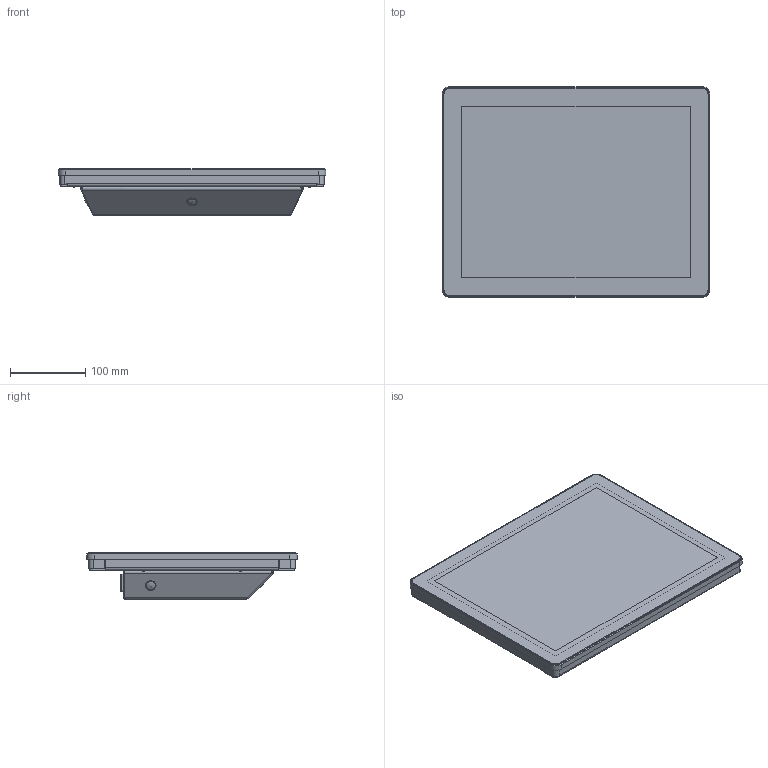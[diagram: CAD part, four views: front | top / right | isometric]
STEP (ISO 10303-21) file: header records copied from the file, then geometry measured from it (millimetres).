
FILE_DESCRIPTION (( 'STEP AP203' ), '1' );
FILE_NAME ('V150S-MON.STEP', '2026-07-31T08:48:04', ( '' ), ( '' ), 'SwSTEP 2.0', 'SolidWorks 2025', '' );
FILE_SCHEMA (( 'CONFIG_CONTROL_DESIGN' ));
Length unit declared in the file: millimetre
Products named in the file (26): V-UNIS-01 Backcover assembly_MON; Afdekkap 12mm; V-UNIS-10 Backcover; TEST BS-M4-8 RVS blinde inpersafstandsteun; V-UNI-12 Bevestigingsplaat; Part3^V150S-00 Assembly; V150S-10 Behuizing; S150S-10 Bezel; V150S-11 Montagestrip; EG-15-319-0403V1; CMI G150XNE-L03; FH-M4-12-ZI Inpersdraadeind; Meanwell IRM-90-12ST; FH4-M3-12 Inpersdraadeind; C08-1525NPH; 220V IEC snap-in input socket 539-2017; V-UNI-MON Connector panel; SO-3,5M3-6-ZI Inpersafstandsteun; V150S-MON; Celrubber 2x6^V150S-00 Assembly; CPCB membrame key pad; SO-3,5M3-10-ZI Inpersafstandsteun; V-serie - M3 x 4 - Z --- 3N_DIN 967 - M3 x 4 - Z --- 3N
Assembly tree (50 placements, depth 4):
  V150S-MON
    V150S-10 Behuizing
    V150S-11 Montagestrip  x2
      V150S-11 Montagestrip
      SO-3,5M3-6-ZI Inpersafstandsteun
    EG-15-319-0403V1
    S150S-10 Bezel
    CMI G150XNE-L03
    V-UNIS-01 Backcover assembly_MON
      V-UNIS-10 Backcover
        V-UNIS-10 Backcover
        TEST BS-M4-8 RVS blinde inpersafstandsteun  x4
        FH-M4-12-ZI Inpersdraadeind  x8
        FH4-M3-12 Inpersdraadeind  x4
      V-UNI-12 Bevestigingsplaat
        V-UNI-12 Bevestigingsplaat
        SO-3,5M3-10-ZI Inpersafstandsteun  x6
      V-UNI-MON Connector panel
      CPCB membrame key pad
      Meanwell IRM-90-12ST
      220V IEC snap-in input socket 539-2017
      C08-1525NPH
      Afdekkap 12mm  x2
    Celrubber 2x6^V150S-00 Assembly
    Afdekkap 12mm
    V-serie - M3 x 4 - Z --- 3N_DIN 967 - M3 x 4 - Z --- 3N  x4
    Part3^V150S-00 Assembly
Bounding box: 356 x 280 x 61.36 mm (x, y, z)
Volume: 1633213.6 mm3; surface area: 928445.5 mm2
Topology: 50 solids, 608 shells, 4539 faces, 14884 edges, 10799 vertices
Faces by surface type: plane 3242, cylinder 934, bspline 253, cone 68, torus 38, sphere 4
Full cylindrical faces by diameter (mm): 0.1 x1, 0.2 x1, 0.8 x16, 1 x3, 1.2 x1, 1.27 x15, 1.8 x3, 2 x1, 2.5 x28, 3 x10, 3.05 x4, 3.5 x42, 4 x16, 4.1 x8, 4.6 x4, 5.4 x10, 5.49 x10, 5.5 x4, 5.9 x8, 6.3 x1, 6.6 x2, 7.1 x4, 7.22 x4, 8 x3, 9 x1, 11 x1, 12 x3, 13.5 x3, 13.9 x1
Entity records: 177042 total; most frequent: CARTESIAN_POINT 59466, ORIENTED_EDGE 21739, DIRECTION 20842, EDGE_CURVE 13843, VERTEX_POINT 10251, VECTOR 9650, LINE 9650, AXIS2_PLACEMENT_3D 5596
